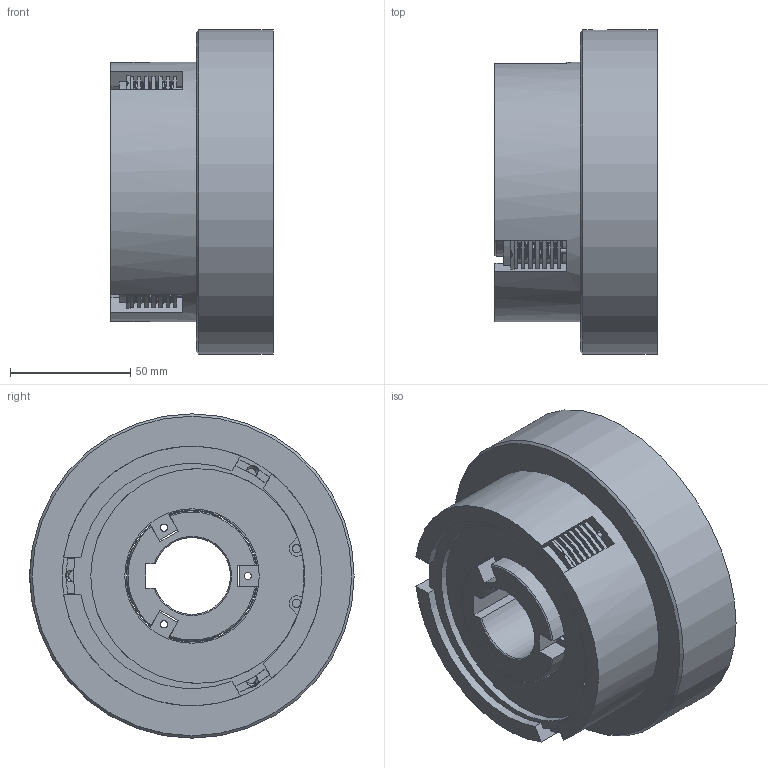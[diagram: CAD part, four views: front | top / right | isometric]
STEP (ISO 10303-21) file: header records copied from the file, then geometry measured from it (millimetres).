
FILE_DESCRIPTION(/* description */ (''),/* implementation_level */ '2;1');
FILE_NAME(/* name */ 'T:\INVENTOR\DISEGNI\03_Friz_Oleod_Pneum_Cil_Stat\03_40 FPL-N\03_40_003_01 FPL_N03\B\03_40_003_01 FPL-N03B@STEP.stp',/* time_stamp */ '2022-03-11T12:43:30+01:00',/* author */ ('w.sartori'),/* organization */ (''),/* preprocessor_version */ 'ST-DEVELOPER v18.1',/* originating_system */ 'Autodesk Inventor 2021',/* authorisation */ '');
FILE_SCHEMA (('AUTOMOTIVE_DESIGN { 1 0 10303 214 3 1 1 }'));
Products named in the file (1): 03_40_003_01 FPL-N03B_Substitute_1
Bounding box: 67.5 x 135 x 135 mm (x, y, z)
Volume: 567685.4 mm3; surface area: 170023.6 mm2
Topology: 8 solids, 10 shells, 676 faces, 1789 edges, 1172 vertices
Faces by surface type: plane 296, cylinder 190, bspline 135, cone 42, torus 13
Full cylindrical faces by diameter (mm): 2 x3, 2.5 x21, 3 x18, 3.5 x5, 4.917 x6, 8.566 x1, 10 x9, 56 x7, 57 x1, 80 x2, 81.806 x1, 87.806 x1, 90 x10, 93.8 x1, 100 x2, 103 x1, 108 x1, 112 x1, 115 x4, 135 x1
Entity records: 39302 total; most frequent: CARTESIAN_POINT 21711, ORIENTED_EDGE 3558, DIRECTION 3460, EDGE_CURVE 1779, AXIS2_PLACEMENT_3D 1377, VERTEX_POINT 1172, EDGE_LOOP 839, CIRCLE 828
